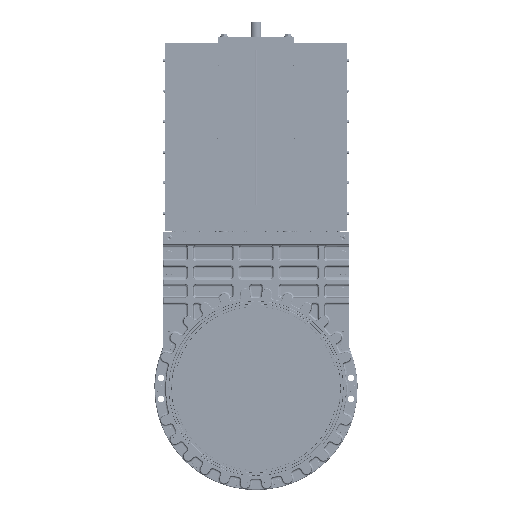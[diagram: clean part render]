
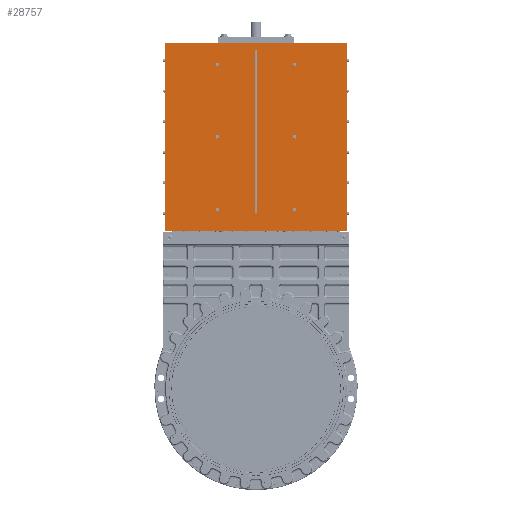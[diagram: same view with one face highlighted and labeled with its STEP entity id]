
A CAD part, top view. The second image highlights one B-rep face of the part: STEP entity #28757.
In plain terms, the highlighted planar face has unit normal (0, 0, 1).
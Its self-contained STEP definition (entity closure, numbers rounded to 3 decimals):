
#28757=ADVANCED_FACE('',(#37519,#37520,#37521,#37522,#37523,#37524,#37525,
#37526),#31211,.T.);
#31211=PLANE('',#91409);
#34526=CIRCLE('',#91265,5.);
#34528=CIRCLE('',#91268,5.);
#34599=CIRCLE('',#91403,10.);
#34600=CIRCLE('',#91404,10.);
#34601=CIRCLE('',#91405,10.);
#34602=CIRCLE('',#91406,10.);
#34603=CIRCLE('',#91407,10.);
#34604=CIRCLE('',#91408,10.);
#37519=FACE_BOUND('',#43344,.T.);
#37520=FACE_BOUND('',#43345,.T.);
#37521=FACE_BOUND('',#43346,.T.);
#37522=FACE_BOUND('',#43347,.T.);
#37523=FACE_BOUND('',#43348,.T.);
#37524=FACE_BOUND('',#43349,.T.);
#37525=FACE_BOUND('',#43350,.T.);
#37526=FACE_BOUND('',#43351,.T.);
#43344=EDGE_LOOP('',(#59899));
#43345=EDGE_LOOP('',(#59900));
#43346=EDGE_LOOP('',(#59901));
#43347=EDGE_LOOP('',(#59902));
#43348=EDGE_LOOP('',(#59903));
#43349=EDGE_LOOP('',(#59904));
#43350=EDGE_LOOP('',(#59905,#59906,#59907,#59908));
#43351=EDGE_LOOP('',(#59909,#59910,#59911,#59912,#59913,#59914));
#59899=ORIENTED_EDGE('',*,*,#77644,.T.);
#59900=ORIENTED_EDGE('',*,*,#77645,.T.);
#59901=ORIENTED_EDGE('',*,*,#77646,.T.);
#59902=ORIENTED_EDGE('',*,*,#77647,.T.);
#59903=ORIENTED_EDGE('',*,*,#77648,.T.);
#59904=ORIENTED_EDGE('',*,*,#77649,.T.);
#59905=ORIENTED_EDGE('',*,*,#77446,.F.);
#59906=ORIENTED_EDGE('',*,*,#77451,.F.);
#59907=ORIENTED_EDGE('',*,*,#77442,.F.);
#59908=ORIENTED_EDGE('',*,*,#77448,.T.);
#59909=ORIENTED_EDGE('',*,*,#77650,.T.);
#59910=ORIENTED_EDGE('',*,*,#77615,.F.);
#59911=ORIENTED_EDGE('',*,*,#77651,.T.);
#59912=ORIENTED_EDGE('',*,*,#77131,.T.);
#59913=ORIENTED_EDGE('',*,*,#77652,.T.);
#59914=ORIENTED_EDGE('',*,*,#77619,.F.);
#68451=VERTEX_POINT('',#155062);
#68453=VERTEX_POINT('',#155070);
#68669=VERTEX_POINT('',#155898);
#68670=VERTEX_POINT('',#155900);
#68673=VERTEX_POINT('',#155907);
#68674=VERTEX_POINT('',#155909);
#68787=VERTEX_POINT('',#156243);
#68790=VERTEX_POINT('',#156248);
#68791=VERTEX_POINT('',#156252);
#68794=VERTEX_POINT('',#156257);
#68809=VERTEX_POINT('',#156306);
#68810=VERTEX_POINT('',#156308);
#68811=VERTEX_POINT('',#156310);
#68812=VERTEX_POINT('',#156312);
#68813=VERTEX_POINT('',#156314);
#68814=VERTEX_POINT('',#156316);
#77131=EDGE_CURVE('',#68453,#68451,#81618,.T.);
#77442=EDGE_CURVE('',#68669,#68670,#34526,.T.);
#77446=EDGE_CURVE('',#68673,#68674,#34528,.T.);
#77448=EDGE_CURVE('',#68669,#68674,#81826,.T.);
#77451=EDGE_CURVE('',#68670,#68673,#81829,.T.);
#77615=EDGE_CURVE('',#68790,#68787,#81935,.T.);
#77619=EDGE_CURVE('',#68794,#68791,#81937,.T.);
#77644=EDGE_CURVE('',#68809,#68809,#34599,.T.);
#77645=EDGE_CURVE('',#68810,#68810,#34600,.T.);
#77646=EDGE_CURVE('',#68811,#68811,#34601,.T.);
#77647=EDGE_CURVE('',#68812,#68812,#34602,.T.);
#77648=EDGE_CURVE('',#68813,#68813,#34603,.T.);
#77649=EDGE_CURVE('',#68814,#68814,#34604,.T.);
#77650=EDGE_CURVE('',#68794,#68787,#81952,.T.);
#77651=EDGE_CURVE('',#68790,#68453,#81953,.T.);
#77652=EDGE_CURVE('',#68451,#68791,#81954,.T.);
#81618=LINE('',#155074,#84606);
#81826=LINE('',#155912,#84814);
#81829=LINE('',#155916,#84817);
#81935=LINE('',#156249,#84923);
#81937=LINE('',#156258,#84925);
#81952=LINE('',#156317,#84940);
#81953=LINE('',#156318,#84941);
#81954=LINE('',#156319,#84942);
#84606=VECTOR('',#106646,1.);
#84814=VECTOR('',#107384,1.);
#84817=VECTOR('',#107389,1.);
#84923=VECTOR('',#107717,1.);
#84925=VECTOR('',#107725,1.);
#84940=VECTOR('',#107788,1.);
#84941=VECTOR('',#107789,1.);
#84942=VECTOR('',#107790,1.);
#91265=AXIS2_PLACEMENT_3D('',#155899,#107371,#107372);
#91268=AXIS2_PLACEMENT_3D('',#155908,#107379,#107380);
#91403=AXIS2_PLACEMENT_3D('',#156305,#107776,#107777);
#91404=AXIS2_PLACEMENT_3D('',#156307,#107778,#107779);
#91405=AXIS2_PLACEMENT_3D('',#156309,#107780,#107781);
#91406=AXIS2_PLACEMENT_3D('',#156311,#107782,#107783);
#91407=AXIS2_PLACEMENT_3D('',#156313,#107784,#107785);
#91408=AXIS2_PLACEMENT_3D('',#156315,#107786,#107787);
#91409=AXIS2_PLACEMENT_3D('',#156320,#107791,#107792);
#106646=DIRECTION('',(-1.,0.,0.));
#107371=DIRECTION('',(0.,0.,1.));
#107372=DIRECTION('',(1.,0.,0.));
#107379=DIRECTION('',(0.,0.,1.));
#107380=DIRECTION('',(1.,0.,0.));
#107384=DIRECTION('',(0.,-1.,0.));
#107389=DIRECTION('',(0.,-1.,0.));
#107717=DIRECTION('',(0.,-1.,0.));
#107725=DIRECTION('',(0.,1.,0.));
#107776=DIRECTION('',(0.,0.,-1.));
#107777=DIRECTION('',(1.,0.,0.));
#107778=DIRECTION('',(0.,0.,-1.));
#107779=DIRECTION('',(1.,0.,0.));
#107780=DIRECTION('',(0.,0.,-1.));
#107781=DIRECTION('',(0.,1.,0.));
#107782=DIRECTION('',(0.,0.,-1.));
#107783=DIRECTION('',(1.,0.,0.));
#107784=DIRECTION('',(0.,0.,-1.));
#107785=DIRECTION('',(0.,1.,0.));
#107786=DIRECTION('',(0.,0.,-1.));
#107787=DIRECTION('',(0.,1.,0.));
#107788=DIRECTION('',(1.,0.,0.));
#107789=DIRECTION('',(-1.,0.,0.));
#107790=DIRECTION('',(-1.,0.,0.));
#107791=DIRECTION('',(0.,0.,1.));
#107792=DIRECTION('',(-1.,0.,0.));
#155062=CARTESIAN_POINT('',(-210.,1900.,0.));
#155070=CARTESIAN_POINT('',(210.,1900.,0.));
#155074=CARTESIAN_POINT('',(0.,1900.,0.));
#155898=CARTESIAN_POINT('',(5.,1855.,0.));
#155899=CARTESIAN_POINT('',(0.,1855.,0.));
#155900=CARTESIAN_POINT('',(-5.,1855.,0.));
#155907=CARTESIAN_POINT('',(-5.,968.,0.));
#155908=CARTESIAN_POINT('',(0.,968.,0.));
#155909=CARTESIAN_POINT('',(5.,968.,0.));
#155912=CARTESIAN_POINT('',(5.,1381.5,0.));
#155916=CARTESIAN_POINT('',(-5.,1381.5,0.));
#156243=CARTESIAN_POINT('',(498.,863.,0.));
#156248=CARTESIAN_POINT('',(498.,1900.,0.));
#156249=CARTESIAN_POINT('',(498.,1381.5,0.));
#156252=CARTESIAN_POINT('',(-498.,1900.,0.));
#156257=CARTESIAN_POINT('',(-498.,863.,0.));
#156258=CARTESIAN_POINT('',(-498.,1381.5,0.));
#156305=CARTESIAN_POINT('',(212.028,1381.5,0.));
#156306=CARTESIAN_POINT('',(222.028,1381.5,0.));
#156307=CARTESIAN_POINT('',(212.028,1780.,0.));
#156308=CARTESIAN_POINT('',(222.028,1780.,0.));
#156309=CARTESIAN_POINT('',(-212.028,1780.,0.));
#156310=CARTESIAN_POINT('',(-212.028,1790.,0.));
#156311=CARTESIAN_POINT('',(212.028,983.,0.));
#156312=CARTESIAN_POINT('',(222.028,983.,0.));
#156313=CARTESIAN_POINT('',(-212.028,1381.5,0.));
#156314=CARTESIAN_POINT('',(-212.028,1391.5,0.));
#156315=CARTESIAN_POINT('',(-212.028,983.,0.));
#156316=CARTESIAN_POINT('',(-212.028,993.,0.));
#156317=CARTESIAN_POINT('',(0.,863.,0.));
#156318=CARTESIAN_POINT('',(0.,1900.,0.));
#156319=CARTESIAN_POINT('',(0.,1900.,0.));
#156320=CARTESIAN_POINT('',(0.,1381.5,0.));
